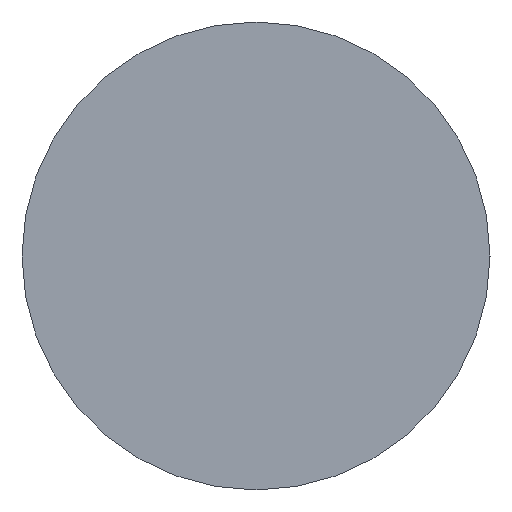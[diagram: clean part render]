
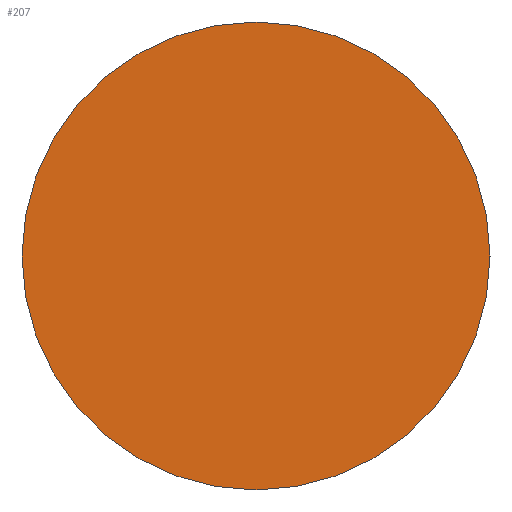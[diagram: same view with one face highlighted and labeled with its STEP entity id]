
A CAD part, left-side view. The second image highlights one B-rep face of the part: STEP entity #207.
In plain terms, the highlighted planar face has unit normal (-1, 0, 0).
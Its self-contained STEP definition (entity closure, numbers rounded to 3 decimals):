
#25 = DIRECTION ( 'NONE',  ( 1., 0., 0. ) ) ;
#37 = AXIS2_PLACEMENT_3D ( 'NONE', #330, #747, #390 ) ;
#42 = CARTESIAN_POINT ( 'NONE',  ( 0., 0., 9.5 ) ) ;
#115 = FACE_OUTER_BOUND ( 'NONE', #211, .T. ) ;
#147 = CARTESIAN_POINT ( 'NONE',  ( 0., 0., 0. ) ) ;
#194 = DIRECTION ( 'NONE',  ( 0., 0., 1. ) ) ;
#207 = ADVANCED_FACE ( 'NONE', ( #115 ), #599, .F. ) ;
#211 = EDGE_LOOP ( 'NONE', ( #672, #291 ) ) ;
#224 = AXIS2_PLACEMENT_3D ( 'NONE', #637, #308, #194 ) ;
#246 = DIRECTION ( 'NONE',  ( 0., 0., -1. ) ) ;
#291 = ORIENTED_EDGE ( 'NONE', *, *, #542, .T. ) ;
#308 = DIRECTION ( 'NONE',  ( -1., 0., 0. ) ) ;
#330 = CARTESIAN_POINT ( 'NONE',  ( 0., 0., 0. ) ) ;
#335 = VERTEX_POINT ( 'NONE', #674 ) ;
#358 = VERTEX_POINT ( 'NONE', #42 ) ;
#381 = EDGE_CURVE ( 'NONE', #358, #335, #439, .T. ) ;
#390 = DIRECTION ( 'NONE',  ( 0., 0., 1. ) ) ;
#439 = CIRCLE ( 'NONE', #37, 9.5 ) ;
#461 = AXIS2_PLACEMENT_3D ( 'NONE', #147, #25, #246 ) ;
#542 = EDGE_CURVE ( 'NONE', #335, #358, #741, .T. ) ;
#599 = PLANE ( 'NONE',  #461 ) ;
#637 = CARTESIAN_POINT ( 'NONE',  ( 0., 0., 0. ) ) ;
#672 = ORIENTED_EDGE ( 'NONE', *, *, #381, .T. ) ;
#674 = CARTESIAN_POINT ( 'NONE',  ( 0., 0., -9.5 ) ) ;
#741 = CIRCLE ( 'NONE', #224, 9.5 ) ;
#747 = DIRECTION ( 'NONE',  ( -1., 0., 0. ) ) ;
